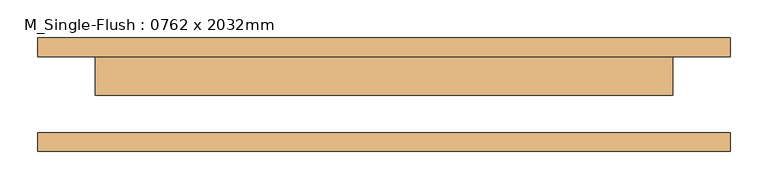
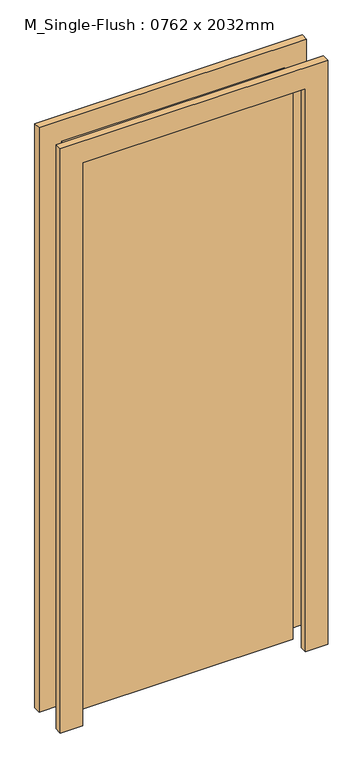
"""IFC4 building model written with IfcOpenShell, lengths in millimetres: door geometry, M_Single-Flush : 0762 x 2032mm."""

from ifc_helpers import new_model, si_unit, frame, origin, origin_with_axes, place, context, project, spatial, polyline, outline, extrude, source, transform, mapped, element, save


def m_single_flush_0762_x_2032mm_6732b1f7(model_context):
    return source(origin(), model_context, "Body", "SweptSolid", [
        extrude(outline(polyline([(2108.0, -457.0), (0.0, -457.0), (0.0, -381.0), (2032.0, -381.0), (2032.0, 381.0), (0.0, 381.0), (0.0, 457.0), (2108.0, 457.0), (2108.0, -457.0)])), frame((0.0, 50.0, 0.0), z_axis=(0.0, 1.0, 0.0), x_axis=(0.0, 0.0, 1.0)), (0.0, 0.0, 1.0), 25.0),
        extrude(outline(polyline([(2108.0, 457.0), (2108.0, -457.0), (0.0, -457.0), (0.0, -381.0), (2032.0, -381.0), (2032.0, 381.0), (0.0, 381.0), (0.0, 457.0), (2108.0, 457.0)])), frame((0.0, -75.0, 0.0), z_axis=(0.0, 1.0, 0.0), x_axis=(0.0, 0.0, 1.0)), (0.0, 0.0, 1.0), 25.0),
        extrude(outline(polyline([(381.0, -1.0), (-381.0, -1.0), (-381.0, 50.0), (381.0, 50.0), (381.0, -1.0)])), origin_with_axes(), (0.0, 0.0, 1.0), 2032.0),
    ])


if __name__ == "__main__":
    model = new_model("IFC4")
    model_context = context("Model", 3, world=origin())
    ifc_project = project(units=[si_unit("LENGTHUNIT", "METRE", prefix="MILLI")], contexts=[model_context])
    site = spatial("IfcSite", under=ifc_project)
    building = spatial("IfcBuilding", under=site)
    placement = place(None, origin())
    m_single_flush_0762_x_2032mm_shape = m_single_flush_0762_x_2032mm_6732b1f7(model_context)
    element("IfcDoor", 1, ObjectType="M_Single-Flush : 0762 x 2032mm", at=placement, inside=building, context=model_context, shape_type="MappedRepresentation", body=[
        mapped(m_single_flush_0762_x_2032mm_shape, transform((0.0, 0.0, 0.0), x_axis=(1.0, 0.0, 0.0), y_axis=(0.0, 1.0, 0.0), z_axis=(0.0, 0.0, 1.0))),
    ])
    save(model, "model.ifc")
